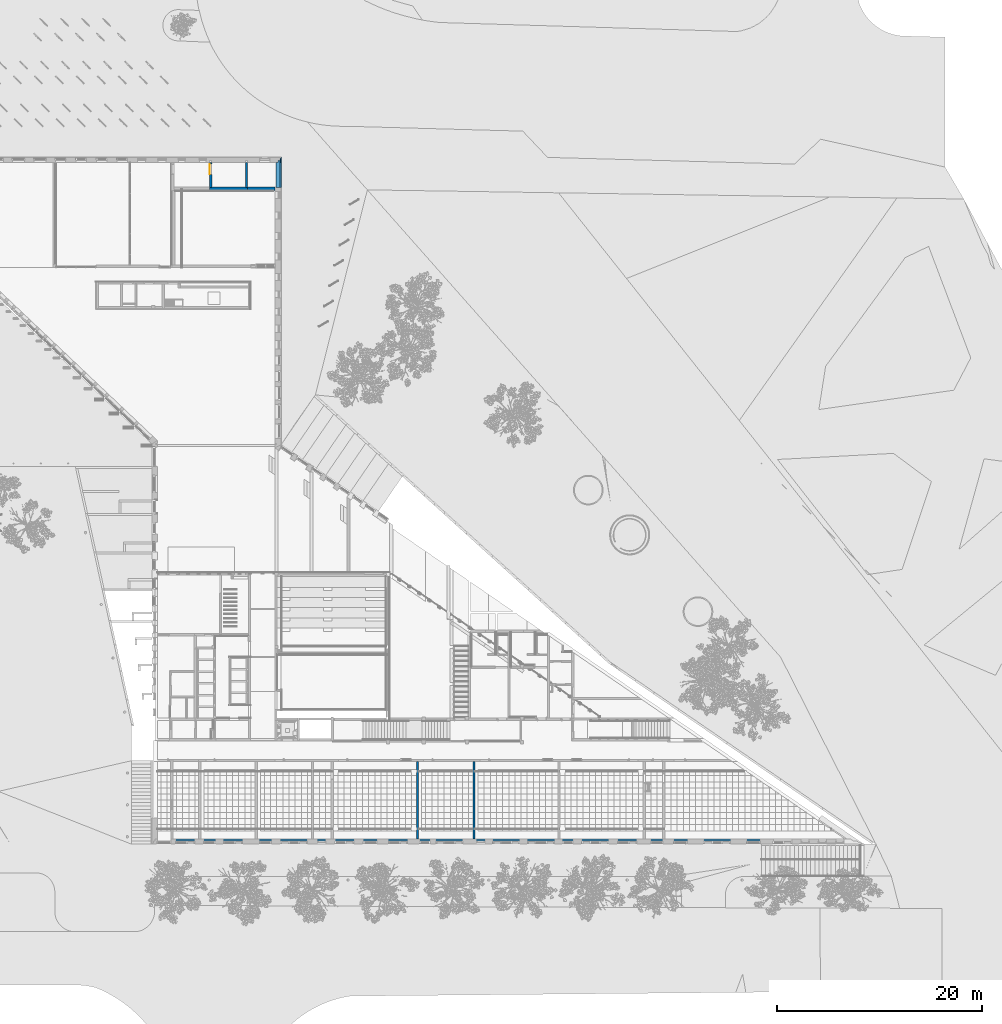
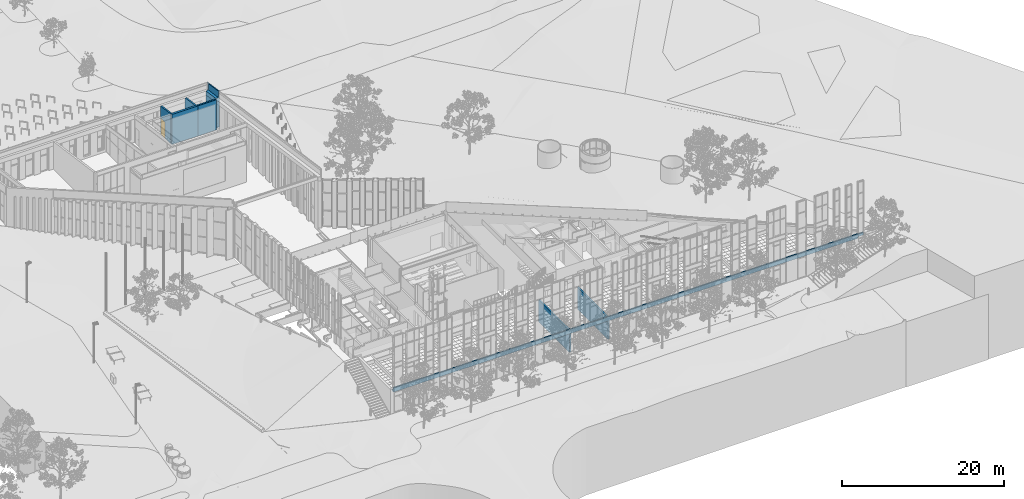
# One storey, part 130 of 246: 9 walls, 1 door, 1 opening.
"""IFC2X3 building model written with IfcOpenShell, lengths in millimetres."""

import ifcopenshell
import ifcopenshell.guid

model = None  # the IFC model being written
_history = None  # IfcOwnerHistory: only IFC2X3 demands one
_inside = {}  # id of a spatial element -> (the spatial element, [elements in it])
_under = {}  # id of a project, library or spatial element -> (it, [spatial elements below it])
_declared = {}  # id of a project -> (the project, [libraries it declares])
_typed = {}  # id of a type object -> (the type object, [elements of that type])
_made_of = {}  # id of a material, layer set ... -> (it, [elements and type objects made of it])


def new_model(schema):
    """Start an empty IFC model of exactly this schema.

    Asked for "IFC4X3", IfcOpenShell would pick the latest addendum, in which some entities
    have other attributes; the version numbers below select the first issue.
    IFC2X3 requires an IfcOwnerHistory on every rooted entity: one is made here for all.
    """
    global model, _history
    if schema == "IFC4X3":
        model = ifcopenshell.file(schema_version=(4, 3, 0, 0))
    else:
        model = ifcopenshell.file(schema=schema)
    _inside.clear()
    _under.clear()
    _declared.clear()
    _typed.clear()
    _made_of.clear()
    _history = None
    if model.schema == "IFC2X3":
        org = make("IfcOrganization", Name="unknown")
        user = make(
            "IfcPersonAndOrganization",
            ThePerson=make("IfcPerson", FamilyName="unknown"),
            TheOrganization=org,
        )
        app = make(
            "IfcApplication",
            ApplicationDeveloper=org,
            Version="unknown",
            ApplicationFullName="unknown",
            ApplicationIdentifier="unknown",
        )
        _history = make(
            "IfcOwnerHistory",
            OwningUser=user,
            OwningApplication=app,
            ChangeAction="ADDED",
            CreationDate=0,
        )
    return model


def make(cls, **values):
    """One entity of the class cls with the attributes given. An attribute that is None is left unset."""
    return model.create_entity(
        cls, **{name: value for name, value in values.items() if value is not None}
    )


def entity(cls, *values):
    """Any entity or typed value of the class cls, its attributes in the order of the schema. None: left unset."""
    e = model.create_entity(cls)
    for i, value in enumerate(values):
        if value is not None:
            e[i] = value
    return e


def rooted(cls, **values):
    """An entity with a GlobalId (a new one), such as an element, a storey or a relation."""
    return make(cls, GlobalId=ifcopenshell.guid.new(), OwnerHistory=_history, **values)


def si_unit(unit_type, name, prefix=None):
    """IfcSIUnit, for example si_unit("LENGTHUNIT", "METRE", prefix="MILLI")."""
    return make("IfcSIUnit", UnitType=unit_type, Prefix=prefix, Name=name)


def converted_unit(unit_type, name, factor, base, dimensions=None, offset=None):
    """IfcConversionBasedUnit, such as the inch: factor (a typed value) times the base unit."""
    return make(
        "IfcConversionBasedUnit"
        if offset is None
        else "IfcConversionBasedUnitWithOffset",
        ConversionOffset=offset,
        Dimensions=None
        if dimensions is None
        else entity("IfcDimensionalExponents", *dimensions),
        UnitType=unit_type,
        Name=name,
        ConversionFactor=make(
            "IfcMeasureWithUnit", ValueComponent=factor, UnitComponent=base
        ),
    )


def derived_unit(unit_type, elements):
    """IfcDerivedUnit: a product of units, each with its exponent."""
    return make(
        "IfcDerivedUnit",
        Elements=[
            make("IfcDerivedUnitElement", Unit=unit, Exponent=power)
            for unit, power in elements
        ],
        UnitType=unit_type,
    )


def money_unit(currency):
    """IfcMonetaryUnit."""
    return make("IfcMonetaryUnit", Currency=currency)


def assignment(units):
    """IfcUnitAssignment: the units of a project."""
    return None if units is None else make("IfcUnitAssignment", Units=units)


def point(xyz):
    """IfcCartesianPoint."""
    return None if xyz is None else make("IfcCartesianPoint", Coordinates=xyz)


def direction(xyz):
    """IfcDirection."""
    return None if xyz is None else make("IfcDirection", DirectionRatios=xyz)


def frame(location, z_axis=None, x_axis=None):
    """IfcAxis2Placement3D, a coordinate frame: its origin and axes. An axis left out is left unset."""
    return make(
        "IfcAxis2Placement3D",
        Location=point(location),
        Axis=direction(z_axis),
        RefDirection=direction(x_axis),
    )


def origin_with_axes():
    """The frame at (0, 0, 0) with the z axis (0, 0, 1) and the x axis (1, 0, 0) written out."""
    return frame((0.0, 0.0, 0.0), z_axis=(0.0, 0.0, 1.0), x_axis=(1.0, 0.0, 0.0))


def place(relative_to, where):
    """IfcLocalPlacement: puts the frame where relative to a parent placement (None: the world)."""
    return make(
        "IfcLocalPlacement", PlacementRelTo=relative_to, RelativePlacement=where
    )


def context(
    kind, dimensions, precision=None, world=None, true_north=None, identifier=None
):
    """IfcGeometricRepresentationContext, for example the 3D "Model" context."""
    return make(
        "IfcGeometricRepresentationContext",
        ContextIdentifier=identifier,
        ContextType=kind,
        CoordinateSpaceDimension=dimensions,
        Precision=precision,
        WorldCoordinateSystem=world,
        TrueNorth=true_north,
    )


def subcontext(parent, identifier, kind, view, scale=None):
    """IfcGeometricRepresentationSubContext, for example "Body" below "Model"."""
    return make(
        "IfcGeometricRepresentationSubContext",
        ContextIdentifier=identifier,
        ContextType=kind,
        ParentContext=parent,
        TargetScale=scale,
        TargetView=view,
    )


def project(units=None, contexts=None):
    """IfcProject with its units and contexts."""
    return rooted(
        "IfcProject",
        Name="project",
        RepresentationContexts=contexts,
        UnitsInContext=assignment(units),
    )


def spatial(cls, under=None, at=None, **own):
    """A site, building, storey or space (cls), placed at a placement, below another one or the project."""
    s = rooted(cls, ObjectPlacement=at, **own)
    if under is not None:
        _under.setdefault(under.id(), (under, []))[1].append(s)
    return s


def faces_of(points, faces, orient=None, outer=None):
    """IfcFace entities. A face is a list of loops; a loop is a list of indices into points, from 0.

    orient and outer hold one flag for each loop. By default every Orientation is true, the
    first loop of a face is its IfcFaceOuterBound and the others are IfcFaceBound.
    """
    made = []
    for i, loops in enumerate(faces):
        bounds = []
        for j, loop in enumerate(loops):
            is_outer = j == 0 if outer is None else outer[i][j]
            bounds.append(
                make(
                    "IfcFaceOuterBound" if is_outer else "IfcFaceBound",
                    Bound=make("IfcPolyLoop", Polygon=[points[k] for k in loop]),
                    Orientation=True if orient is None else orient[i][j],
                )
            )
        made.append(make("IfcFace", Bounds=bounds))
    return made


def faceted_brep(points, faces, orient=None, outer=None, voids=None):
    """IfcFacetedBrep: a solid bounded by flat faces; with voids (closed shells), ...WithVoids."""
    shared = [point(p) for p in points]
    hull = make("IfcClosedShell", CfsFaces=faces_of(shared, faces, orient, outer))
    if voids is None:
        return make("IfcFacetedBrep", Outer=hull)
    return make(
        "IfcFacetedBrepWithVoids",
        Outer=hull,
        Voids=[
            make(cls, CfsFaces=faces_of(shared, fs, o, b)) for cls, fs, o, b in voids
        ],
    )


def shape(context_of_items, identifier, shape_type, items):
    """IfcShapeRepresentation: the items that make up one representation, for example the "Body"."""
    return make(
        "IfcShapeRepresentation",
        ContextOfItems=context_of_items,
        RepresentationIdentifier=identifier,
        RepresentationType=shape_type,
        Items=items,
    )


def material(Name=None, Category=None):
    """IfcMaterial."""
    return make("IfcMaterial", Name=Name, Category=Category)


def material_list(materials):
    """IfcMaterialList."""
    return make("IfcMaterialList", Materials=materials)


def made_of(thing, what):
    """Note that an element or type object is made of a material, layer set ...; save() writes the relation."""
    if what is not None:
        _made_of.setdefault(what.id(), (what, []))[1].append(thing)
    return thing


def type_object(cls, material=None, **own):
    """A type object (cls), such as IfcWallType, which elements share."""
    return made_of(rooted(cls, **own), material)


def element(
    cls,
    number,
    at=None,
    inside=None,
    cuts=None,
    type_object=None,
    material=None,
    context=None,
    identifier="Body",
    shape_type=None,
    held_by="IfcProductDefinitionShape",
    body=None,
    shapes=None,
    **own,
):
    """One element of the class cls, such as IfcWall. Its Tag is "e" and its number.

    at: its placement. inside: the storey or other place that contains it. cuts: it is an
    opening in that element (IfcRelVoidsElement). A single representation is given by context,
    identifier, shape_type and body (its items); several are given by shapes. held_by: the class
    of the entity that holds the representations. save() writes the other relations.
    """
    e = rooted(cls, Tag="e%d" % number, ObjectPlacement=at, **own)
    if body is not None:
        shapes = [shape(context, identifier, shape_type, body)]
    if shapes is not None:
        e.Representation = make(held_by, Representations=shapes)
    if inside is not None:
        _inside.setdefault(inside.id(), (inside, []))[1].append(e)
    if cuts is not None:
        rooted(
            "IfcRelVoidsElement", RelatingBuildingElement=cuts, RelatedOpeningElement=e
        )
    if type_object is not None:
        _typed.setdefault(type_object.id(), (type_object, []))[1].append(e)
    return made_of(e, material)


def fill(opening, filler):
    """IfcRelFillsElement: the door or window that sits in an opening."""
    return rooted(
        "IfcRelFillsElement",
        RelatingOpeningElement=opening,
        RelatedBuildingElement=filler,
    )


def aggregate(whole, parts):
    """IfcRelAggregates: a whole, such as a stair, and the parts it consists of."""
    return rooted("IfcRelAggregates", RelatingObject=whole, RelatedObjects=parts)


def save(model, path):
    """Write the relations noted so far, then the file.

    IfcRelAggregates (storeys below a building ...), IfcRelContainedInSpatialStructure (elements
    in a storey), IfcRelDefinesByType, IfcRelAssociatesMaterial and IfcRelDeclares: one each for
    every whole, place, type object, material and project.
    """
    for whole, parts in _under.values():
        aggregate(whole, parts)
    for where, things in _inside.values():
        rooted(
            "IfcRelContainedInSpatialStructure",
            RelatedElements=things,
            RelatingStructure=where,
        )
    for kind, things in _typed.values():
        rooted("IfcRelDefinesByType", RelatedObjects=things, RelatingType=kind)
    for what, things in _made_of.values():
        rooted("IfcRelAssociatesMaterial", RelatedObjects=things, RelatingMaterial=what)
    for by, libraries in _declared.values():
        rooted("IfcRelDeclares", RelatingContext=by, RelatedDefinitions=libraries)
    model.write(path)


model = new_model("IFC2X3")

# Units and contexts
model_context = context("Model", 3, precision=0.01, world=origin_with_axes(), true_north=direction((0.0, 1.0)))
body_context = subcontext(model_context, "Body", "Model", "MODEL_VIEW")
ifc_project = project(units=[si_unit("LENGTHUNIT", "METRE", prefix="MILLI"), si_unit("AREAUNIT", "SQUARE_METRE"), si_unit("VOLUMEUNIT", "CUBIC_METRE"), converted_unit("PLANEANGLEUNIT", "DEGREE", entity("IfcPlaneAngleMeasure", 0.0174532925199), si_unit("PLANEANGLEUNIT", "RADIAN"), dimensions=[0, 0, 0, 0, 0, 0, 0]), si_unit("SOLIDANGLEUNIT", "STERADIAN"), money_unit("EUR"), converted_unit("TIMEUNIT", "Year", entity("IfcTimeMeasure", 31556926.0), si_unit("TIMEUNIT", "SECOND"), dimensions=[0, 0, 1, 0, 0, 0, 0]), si_unit("MASSUNIT", "GRAM", prefix="KILO"), si_unit("THERMODYNAMICTEMPERATUREUNIT", "DEGREE_CELSIUS"), si_unit("LUMINOUSINTENSITYUNIT", "LUMEN"), si_unit("ENERGYUNIT", "JOULE", prefix="MEGA"), derived_unit("THERMALCONDUCTANCEUNIT", [(si_unit("POWERUNIT", "WATT"), 1), (si_unit("LENGTHUNIT", "METRE"), -1), (si_unit("THERMODYNAMICTEMPERATUREUNIT", "KELVIN"), -1)]), derived_unit("SPECIFICHEATCAPACITYUNIT", [(si_unit("ENERGYUNIT", "JOULE"), 1), (si_unit("MASSUNIT", "GRAM", prefix="KILO"), -1), (si_unit("THERMODYNAMICTEMPERATUREUNIT", "KELVIN"), -1)]), derived_unit("MASSDENSITYUNIT", [(si_unit("MASSUNIT", "GRAM", prefix="KILO"), 1), (si_unit("VOLUMEUNIT", "CUBIC_METRE"), -1)])], contexts=[model_context])

# Site, building, storey
site_placement = place(None, origin_with_axes())
site = spatial("IfcSite", under=ifc_project, at=site_placement, Name="L.Koidula tn 11b", CompositionType="ELEMENT")
building_placement = place(site_placement, origin_with_axes())
building = spatial("IfcBuilding", under=site, at=building_placement, Name="Rakvere Riigigümnaasium", CompositionType="ELEMENT")
storey_placement = place(building_placement, origin_with_axes())
storey = spatial("IfcBuildingStorey", under=building, at=storey_placement, Name="1.korrus 0,00", CompositionType="ELEMENT", Elevation=0.0)

# Walls
ifc_material_1 = material(Name="Krohv")
ifc_material_2 = material(Name="Betoon element / plaat")
ifc_material_3 = material(Name="mineraalvill+karkass")
ifc_material_4 = material(Name="Kipsplaat")
ifc_material_list_1 = material_list([ifc_material_1, ifc_material_2, ifc_material_3, ifc_material_4])
wall_type_1 = type_object("IfcWallType", Name="SS-02-1 345", PredefinedType="NOTDEFINED")
wall_1_placement = place(storey_placement, frame((40620.034853, 68845.4313013, 0.0), z_axis=(0.0, 0.0, 1.0), x_axis=(1.0, 0.0, 0.0)))
element("IfcWall", 1, at=wall_1_placement, inside=storey, type_object=wall_type_1, material=ifc_material_list_1, Name="Sisesein", context=body_context, shape_type="Brep", body=[
    faceted_brep([(210.0, 345.0, 4499.68317876), (3499.50084348, 345.0, 4499.68316018), (3499.50084348, 345.0, 0.0), (210.0, 345.0, 0.0), (3499.49877233, 335.0, 4501.10637093), (210.0, 335.0, 4501.10638952), (3499.49877233, 335.0, 0.0), (210.0, 335.0, 0.0)], [[[0, 1, 2, 3]], [[4, 1, 0, 5]], [[1, 4, 6, 2]], [[6, 7, 3, 2]], [[5, 0, 3, 7]], [[4, 5, 7, 6]]]),
    faceted_brep([(0.0, 335.0, 4501.10639071), (3710.0, 335.0, 4501.10636974), (3710.0, 335.0, 0.0), (0.0, 335.0, 0.0), (3710.0, 135.0, 4529.57058488), (0.0, 135.0, 4529.57060585), (3710.0, 135.0, 0.0), (0.0, 135.0, 0.0)], [[[0, 1, 2, 3]], [[4, 1, 0, 5]], [[1, 4, 6, 2]], [[6, 7, 3, 2]], [[5, 0, 3, 7]], [[4, 5, 7, 6]]]),
    faceted_brep([(0.0, 125.0, 4530.9938166), (3710.0, 125.0, 4530.99379564), (3710.0, 125.0, 0.0), (0.0, 125.0, 0.0), (3710.0, 25.0, 4545.22590321), (0.0, 25.0, 4545.22592417), (3710.0, 25.0, 0.0), (0.0, 25.0, 0.0)], [[[0, 1, 2, 3]], [[4, 1, 0, 5]], [[1, 4, 6, 2]], [[7, 3, 2, 6]], [[5, 0, 3, 7]], [[4, 5, 7, 6]]]),
    faceted_brep([(0.0, 25.0, 4545.22592417), (3710.0, 25.0, 4545.22590321), (3710.0, 25.0, 0.0), (0.0, 25.0, 0.0), (3710.0, 0.0, 4548.7839301), (0.0, 0.0, 4548.78395107), (3710.0, 0.0, 0.0), (0.0, 0.0, 0.0)], [[[0, 1, 2, 3]], [[4, 1, 0, 5]], [[1, 4, 6, 2]], [[7, 3, 2, 6]], [[5, 0, 3, 7]], [[4, 5, 7, 6]]]),
])
wall_2_placement = place(storey_placement, frame((44330.034853, 68845.4313013, 0.0), z_axis=(0.0, 0.0, 1.0), x_axis=(1.0, 0.0, 0.0)))
element("IfcWall", 2, at=wall_2_placement, inside=storey, type_object=wall_type_1, material=ifc_material_list_1, Name="Sisesein", context=body_context, shape_type="Brep", body=[
    faceted_brep([(0.0, 345.0, 4499.68315899), (2669.0, 345.0, 4499.68314391), (2669.0, 345.0, 750.0), (9.50057444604, 345.0, 750.0), (9.50057444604, 345.0, 260.0), (2669.0, 345.0, 260.0), (2669.0, 345.0, 0.0), (0.0, 345.0, 0.0), (2669.0, 335.0, 4501.10635466), (0.0, 335.0, 4501.10636974), (2669.0, 335.0, 750.0), (9.50057444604, 335.0, 750.0), (9.50057444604, 335.0, 260.0), (2669.0, 335.0, 260.0), (2669.0, 335.0, 0.0), (0.0, 335.0, 0.0)], [[[0, 1, 2, 3, 4, 5, 6, 7]], [[8, 1, 0, 9]], [[1, 8, 10, 2]], [[11, 3, 2, 10]], [[4, 3, 11, 12]], [[12, 13, 5, 4]], [[6, 5, 13, 14]], [[15, 7, 6, 14]], [[9, 0, 7, 15]], [[8, 9, 15, 14, 13, 12, 11, 10]]]),
    faceted_brep([(0.0, 335.0, 4501.10636974), (2669.0, 335.0, 4501.10635466), (2669.0, 335.0, 740.0), (9.50057444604, 335.0, 740.0), (9.50057444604, 335.0, 660.0), (2669.0, 335.0, 660.0), (2669.0, 335.0, 0.0), (0.0, 335.0, 0.0), (2669.0, 135.0, 4529.5705698), (0.0, 135.0, 4529.57058488), (2669.0, 135.0, 0.0), (2669.0, 333.7, 660.0), (2669.0, 333.7, 740.0), (9.50057444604, 333.7, 740.0), (9.50057444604, 333.7, 660.0), (0.0, 135.0, 0.0)], [[[0, 1, 2, 3, 4, 5, 6, 7]], [[8, 1, 0, 9]], [[1, 8, 10, 6, 5, 11, 12, 2]], [[13, 3, 2, 12]], [[14, 4, 3, 13]], [[14, 11, 5, 4]], [[15, 7, 6, 10]], [[9, 0, 7, 15]], [[8, 9, 15, 10]], [[13, 12, 11, 14]]]),
    faceted_brep([(0.0, 125.0, 4530.99379564), (2669.0, 125.0, 4530.99378056), (2669.0, 125.0, 0.0), (0.0, 125.0, 0.0), (2669.0, 25.0, 4545.22588813), (0.0, 25.0, 4545.22590321), (2669.0, 25.0, 0.0), (0.0, 25.0, 0.0)], [[[0, 1, 2, 3]], [[4, 1, 0, 5]], [[1, 4, 6, 2]], [[3, 2, 6, 7]], [[5, 0, 3, 7]], [[4, 5, 7, 6]]]),
    faceted_brep([(0.0, 25.0, 4545.22590321), (2669.0, 25.0, 4545.22588813), (2669.0, 25.0, 0.0), (0.0, 25.0, 0.0), (2669.0, 0.0, 4548.78391502), (0.0, 0.0, 4548.7839301), (2669.0, 0.0, 0.0), (0.0, 0.0, 0.0)], [[[0, 1, 2, 3]], [[4, 1, 0, 5]], [[1, 4, 6, 2]], [[3, 2, 6, 7]], [[5, 0, 3, 7]], [[4, 5, 7, 6]]]),
])

# Wall, opening, door
ifc_material_5 = material(Name="siseviimistlus-seinad")
ifc_material_list_2 = material_list([ifc_material_5, ifc_material_2, ifc_material_5])
wall_type_2 = type_object("IfcWallType", Name="SS-01-2 220", PredefinedType="NOTDEFINED")
wall_3_placement = place(storey_placement, frame((40620.034853, 71600.4756445, 0.0), z_axis=(0.0, 0.0, 1.0), x_axis=(0.0, -1.0, 0.0)))
wall_3 = element("IfcWall", 3, at=wall_3_placement, inside=storey, type_object=wall_type_2, material=ifc_material_list_2, Name="Sisesein", context=body_context, shape_type="Brep", body=[
    faceted_brep([(0.0, 200.0, 4156.6830754), (0.0, 210.0, 4156.68307534), (0.0, 210.0, 3573.97480983), (0.0, 200.0, 3573.97480983), (2420.04434324, 210.0, 4501.10638952), (2420.04434324, 200.0, 4501.10638958), (2420.04434324, 210.0, 0.0), (1149.83912434, 210.0, 0.0), (1149.83912434, 210.0, 2400.0), (149.839124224, 210.0, 2400.0), (149.839124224, 210.0, 0.0), (0.0239607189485, 210.0, 0.0), (0.0239607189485, 210.0, 3573.97480983), (0.0239607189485, 200.0, 3573.97480983), (0.0239607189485, 200.0, 0.0), (149.839124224, 200.0, 0.0), (149.839124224, 200.0, 2400.0), (1149.83912434, 200.0, 2400.0), (1149.83912434, 200.0, 0.0), (2420.04434324, 200.0, 0.0)], [[[0, 1, 2, 3]], [[4, 1, 0, 5]], [[1, 4, 6, 7, 8, 9, 10, 11, 12, 2]], [[3, 2, 12, 13]], [[5, 0, 3, 13, 14, 15, 16, 17, 18, 19]], [[4, 5, 19, 6]], [[19, 18, 7, 6]], [[17, 8, 7, 18]], [[16, 9, 8, 17]], [[15, 10, 9, 16]], [[11, 10, 15, 14]], [[12, 11, 14, 13]]]),
    faceted_brep([(0.0, 0.0, 4156.68307653), (0.0, 200.0, 4156.6830754), (0.0, 200.0, 0.0), (0.0, 0.0, 0.0), (2420.04434324, 200.0, 4501.10638958), (2420.04434324, 0.0, 4501.10639071), (2420.04434324, 200.0, 0.0), (1149.83912434, 200.0, 0.0), (1149.83912434, 200.0, 2400.0), (149.839124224, 200.0, 2400.0), (149.839124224, 200.0, 0.0), (149.839124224, 0.0, 0.0), (149.839124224, 0.0, 2400.0), (1149.83912434, 0.0, 2400.0), (1149.83912434, 0.0, 0.0), (2420.04434324, 0.0, 0.0)], [[[0, 1, 2, 3]], [[4, 1, 0, 5]], [[1, 4, 6, 7, 8, 9, 10, 2]], [[10, 11, 3, 2]], [[5, 0, 3, 11, 12, 13, 14, 15]], [[4, 5, 15, 6]], [[15, 14, 7, 6]], [[7, 14, 13, 8]], [[9, 8, 13, 12]], [[10, 9, 12, 11]]]),
    faceted_brep([(0.0, -10.0, 4156.68307658), (0.0, 0.0, 4156.68307653), (0.0, 0.0, 3573.97480983), (0.0, -10.0, 3573.97480983), (2420.04434324, 0.0, 4501.10639071), (2420.04434324, -10.0, 4501.10639076), (2420.04434324, 0.0, 0.0), (1149.83912434, 0.0, 0.0), (1149.83912434, 0.0, 2400.0), (149.839124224, 0.0, 2400.0), (149.839124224, 0.0, 0.0), (0.0239607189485, 0.0, 0.0), (0.0239607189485, 0.0, 3573.97480983), (0.0239607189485, -10.0, 3573.97480983), (0.0239607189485, -10.0, 0.0), (149.839124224, -10.0, 0.0), (149.839124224, -10.0, 2400.0), (1149.83912434, -10.0, 2400.0), (1149.83912434, -10.0, 0.0), (2420.04434324, -10.0, 0.0)], [[[0, 1, 2, 3]], [[4, 1, 0, 5]], [[1, 4, 6, 7, 8, 9, 10, 11, 12, 2]], [[3, 2, 12, 13]], [[5, 0, 3, 13, 14, 15, 16, 17, 18, 19]], [[4, 5, 19, 6]], [[19, 18, 7, 6]], [[17, 8, 7, 18]], [[16, 9, 8, 17]], [[15, 10, 9, 16]], [[11, 10, 15, 14]], [[12, 11, 14, 13]]]),
])
opening_placement = place(wall_3_placement, frame((649.839124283, 0.0, 0.0), z_axis=(0.0, 0.0, 1.0), x_axis=(1.0, 0.0, 0.0)))
opening = element("IfcOpeningElement", 4, at=opening_placement, cuts=wall_3, Name="SU-002", context=body_context, shape_type="Brep", body=[
    faceted_brep([(-500.000000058, 30.0, 0.0), (-500.000000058, 30.0, 2400.0), (-500.000000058, 430.0, 2400.0), (-500.000000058, 430.0, 0.0), (500.000000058, 30.0, 0.0), (500.000000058, 30.0, 2400.0), (500.000000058, 430.0, 2400.0), (500.000000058, 430.0, 0.0)], [[[0, 1, 2, 3]], [[0, 4, 5, 1]], [[1, 5, 6, 2]], [[3, 2, 6, 7]], [[4, 0, 3, 7]], [[5, 4, 7, 6]]]),
    faceted_brep([(-500.000000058, 30.0, 2400.0), (-500.000000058, 30.0, 0.0), (-500.000000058, -230.0, 0.0), (-500.000000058, -230.0, 2400.0), (500.000000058, 30.0, 2400.0), (500.000000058, 30.0, 0.0), (500.000000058, -230.0, 0.0), (500.000000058, -230.0, 2400.0)], [[[0, 1, 2, 3]], [[0, 4, 5, 1]], [[1, 5, 6, 2]], [[3, 2, 6, 7]], [[4, 0, 3, 7]], [[5, 4, 7, 6]]]),
])
door_style = type_object("IfcDoorStyle", Name="Door 23", ConstructionType="NOTDEFINED", OperationType="SINGLE_SWING_LEFT", ParameterTakesPrecedence=False, Sizeable=False)
door_placement = place(opening_placement, frame((-500.000000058, 0.0, 0.0), z_axis=(0.0, 0.0, 1.0), x_axis=(1.0, 0.0, 0.0)))
door = element("IfcDoor", 5, at=door_placement, inside=storey, type_object=door_style, Name="SU-002", ObjectType="DOOR", OverallHeight=2400.0, OverallWidth=1000.0, context=body_context, shape_type="Brep", body=[
    faceted_brep([(962.000000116, -10.0, 0.0), (1000.00000012, -10.0, 0.0), (1000.00000012, -10.0, 2350.0), (962.000000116, -10.0, 2350.0), (962.000000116, 30.0, 0.0), (1000.00000012, 30.0, 0.0), (1000.00000012, 30.0, 2350.0), (962.000000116, 30.0, 2350.0)], [[[0, 1, 2, 3]], [[4, 5, 1, 0]], [[5, 6, 2, 1]], [[3, 2, 6, 7]], [[7, 4, 0, 3]], [[7, 6, 5, 4]]]),
    faceted_brep([(38.0, 30.0, 2350.0), (0.0, 30.0, 2350.0), (0.0, -10.0, 2350.0), (38.0, -10.0, 2350.0), (38.0, 30.0, 0.0), (0.0, 30.0, 0.0), (0.0, -10.0, 0.0), (38.0, -10.0, 0.0)], [[[0, 1, 2, 3]], [[4, 5, 1, 0]], [[1, 5, 6, 2]], [[3, 2, 6, 7]], [[7, 4, 0, 3]], [[7, 6, 5, 4]]]),
    faceted_brep([(962.000000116, -10.0, 2350.0), (1000.00000012, -10.0, 2350.0), (1000.00000012, -10.0, 2400.0), (0.0, -10.0, 2400.0), (0.0, -10.0, 2350.0), (38.0, -10.0, 2350.0), (38.0, -10.0, 2362.0), (962.000000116, -10.0, 2362.0), (962.000000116, 30.0, 2350.0), (1000.00000012, 30.0, 2350.0), (1000.00000012, 30.0, 2400.0), (0.0, 30.0, 2400.0), (0.0, 30.0, 2350.0), (38.0, 30.0, 2350.0), (38.0, 30.0, 2362.0), (962.000000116, 30.0, 2362.0)], [[[0, 1, 2, 3, 4, 5, 6, 7]], [[8, 9, 1, 0]], [[9, 10, 2, 1]], [[10, 11, 3, 2]], [[11, 12, 4, 3]], [[5, 4, 12, 13]], [[5, 13, 14, 6]], [[6, 14, 15, 7]], [[7, 15, 8, 0]], [[15, 14, 13, 12, 11, 10, 9, 8]]]),
    faceted_brep([(38.0, 30.0, 0.0), (962.000000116, 30.0, 0.0), (962.000000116, -10.0, 0.0), (38.0, -10.0, 0.0), (38.0, 30.0, 2362.0), (962.000000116, 30.0, 2362.0), (962.000000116, -10.0, 2362.0), (38.0, -10.0, 2362.0)], [[[0, 1, 2, 3]], [[0, 4, 5, 1]], [[1, 5, 6, 2]], [[3, 2, 6, 7]], [[4, 0, 3, 7]], [[5, 4, 7, 6]]]),
])
fill(opening, door)

# Walls
wall_4_placement = place(storey_placement, frame((66340.0149327, 13280.4487973, 0.0), z_axis=(0.0, 0.0, 1.0), x_axis=(0.0, -1.0, 0.0)))
element("IfcWall", 6, at=wall_4_placement, inside=storey, type_object=wall_type_2, material=ifc_material_list_2, Name="Sisesein", context=body_context, shape_type="Brep", body=[
    faceted_brep([(209.999946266, 200.0, 3325.0), (209.999943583, 210.0, 3325.0), (209.999943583, 210.0, 0.0), (209.999946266, 200.0, 0.0), (7779.99325778, 210.0, 3325.0), (7779.99325778, 200.0, 3325.0), (7779.99325839, 210.0, -7.44323735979e-06), (7779.99325839, 200.0, -7.44088657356e-06)], [[[0, 1, 2, 3]], [[4, 1, 0, 5]], [[1, 4, 6, 2]], [[2, 6, 7, 3]], [[5, 0, 3, 7]], [[4, 5, 7, 6]]]),
    faceted_brep([(199.99442552, 0.0, 3325.0), (199.99442552, 200.0, 3325.0), (199.999946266, 200.0, 0.0), (199.99999992, 0.0, 0.0), (7779.99325778, 200.0, 3325.0), (7779.99325778, 0.0, 3325.0), (7779.99325839, 200.0, -7.44088657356e-06), (7779.99325839, 0.0, -7.39387262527e-06)], [[[0, 1, 2, 3]], [[4, 1, 0, 5]], [[1, 4, 6, 2]], [[2, 6, 7, 3]], [[5, 0, 3, 7]], [[4, 5, 7, 6]]]),
    faceted_brep([(210.000002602, -10.0, 3325.0), (209.99999992, 0.0, 3325.0), (209.99999992, 0.0, 0.0), (210.000002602, -10.0, 0.0), (7779.99325778, 0.0, 3325.0), (7779.99325779, -10.0, 3325.0), (7779.99325839, 0.0, -7.39387284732e-06), (7779.99325839, -10.0, -7.39152206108e-06)], [[[0, 1, 2, 3]], [[4, 1, 0, 5]], [[1, 4, 6, 2]], [[2, 6, 7, 3]], [[5, 0, 3, 7]], [[4, 5, 7, 6]]]),
])
wall_5_placement = place(storey_placement, frame((60820.0162917, 13280.4473164, 0.0), z_axis=(0.0, 0.0, 1.0), x_axis=(0.0, -1.0, 0.0)))
element("IfcWall", 7, at=wall_5_placement, inside=storey, type_object=wall_type_2, material=ifc_material_list_2, Name="Sisesein", context=body_context, shape_type="Brep", body=[
    faceted_brep([(209.999946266, 200.0, 3325.0), (209.999943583, 210.0, 3325.0), (209.999943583, 210.0, 0.0), (209.999946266, 200.0, 0.0), (7779.99177705, 210.0, 3325.0), (7779.99177705, 200.0, 3325.0), (7779.99177755, 210.0, -6.14565509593e-06), (7779.99177755, 200.0, -6.1433043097e-06)], [[[0, 1, 2, 3]], [[4, 1, 0, 5]], [[1, 4, 6, 2]], [[2, 6, 7, 3]], [[5, 0, 3, 7]], [[4, 5, 7, 6]]]),
    faceted_brep([(199.99294468, 0.0, 3325.0), (199.99294468, 200.0, 3325.0), (199.999946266, 200.0, 0.0), (199.99999992, 0.0, 0.0), (7779.99177705, 200.0, 3325.0), (7779.99177705, 0.0, 3325.0), (7779.99177755, 200.0, -6.14330453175e-06), (7779.99177755, 0.0, -6.09629058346e-06)], [[[0, 1, 2, 3]], [[4, 1, 0, 5]], [[1, 4, 6, 2]], [[2, 6, 7, 3]], [[5, 0, 3, 7]], [[4, 5, 7, 6]]]),
    faceted_brep([(210.000002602, -10.0, 3325.0), (209.99999992, 0.0, 3325.0), (209.99999992, 0.0, 0.0), (210.000002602, -10.0, 0.0), (7779.99177705, 0.0, 3325.0), (7779.99177705, -10.0, 3325.0), (7779.99177755, 0.0, -6.09629058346e-06), (7779.99177755, -10.0, -6.09393979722e-06)], [[[0, 1, 2, 3]], [[4, 1, 0, 5]], [[1, 4, 6, 2]], [[2, 6, 7, 3]], [[5, 0, 3, 7]], [[4, 5, 7, 6]]]),
])
wall_6_placement = place(storey_placement, frame((44130.034853, 71600.4756445, 0.0), z_axis=(0.0, 0.0, 1.0), x_axis=(-0.000207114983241, -0.999999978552, 0.0)))
element("IfcWall", 8, at=wall_6_placement, inside=storey, type_object=wall_type_2, material=ifc_material_list_2, Name="Sisesein", context=body_context, shape_type="Brep", body=[
    faceted_brep([(0.0, 200.0, 4156.68895093), (0.0, 210.0, 4156.68924564), (0.0, 210.0, 750.0), (0.0, 209.500578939, 750.0), (0.0, 209.500578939, 460.0), (0.0, 210.0, 460.0), (0.0, 210.0, 0.0), (0.0, 200.0, 0.0), (2420.00090099, 210.0, 4501.10636969), (2420.00297214, 200.0, 4501.10636975), (2420.00090099, 210.0, 0.0), (2411.32264793, 210.0, 460.0), (2411.32264793, 210.0, 750.0), (2420.00297214, 200.0, 0.0)], [[[0, 1, 2, 3, 4, 5, 6, 7]], [[8, 1, 0, 9]], [[1, 8, 10, 6, 5, 11, 12, 2]], [[2, 12, 3]], [[11, 4, 3, 12]], [[5, 4, 11]], [[6, 10, 13, 7]], [[9, 0, 7, 13]], [[8, 9, 13, 10]]]),
    faceted_brep([(0.0, 0.0, 4156.68305669), (0.0, 200.0, 4156.68895093), (0.0, 200.0, 0.0), (0.0, 0.0, 0.0), (2420.00297214, 200.0, 4501.10636975), (2420.04439514, 0.0, 4501.10637088), (2420.00297214, 200.0, 0.0), (2420.04439514, 0.0, 0.0)], [[[0, 1, 2, 3]], [[4, 1, 0, 5]], [[1, 4, 6, 2]], [[6, 7, 3, 2]], [[5, 0, 3, 7]], [[4, 5, 7, 6]]]),
    faceted_brep([(0.0, -10.0, 4156.68276198), (0.0, 0.0, 4156.68305669), (0.0, 0.0, 3573.97480983), (0.0, -10.0, 3573.97480983), (2420.04439514, 0.0, 4501.10637088), (2420.04646629, -10.0, 4501.10637093), (2420.04439514, 0.0, 0.0), (0.0239607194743, 0.0, 0.0), (0.0239607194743, 0.0, 3573.97480983), (0.0260318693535, -10.0, 3573.97480983), (0.0260318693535, -10.0, 0.0), (2420.04646629, -10.0, 0.0)], [[[0, 1, 2, 3]], [[4, 1, 0, 5]], [[1, 4, 6, 7, 8, 2]], [[9, 3, 2, 8]], [[5, 0, 3, 9, 10, 11]], [[4, 5, 11, 6]], [[11, 10, 7, 6]], [[9, 8, 7, 10]]]),
])
ifc_material_6 = material(Name="FF-PIR soojustus-2")
ifc_material_7 = material(Name="Betoon-element")
ifc_material_list_3 = material_list([ifc_material_6, ifc_material_7, ifc_material_1])
wall_type_3 = type_object("IfcWallType", Name="VS-01-3 390", PredefinedType="NOTDEFINED")
wall_7_placement = place(storey_placement, frame((102599.965712, 5500.45553887, 3075.0), z_axis=(0.0, 0.0, 1.0), x_axis=(-1.0, 0.0, 0.0)))
element("IfcWall", 9, at=wall_7_placement, inside=storey, type_object=wall_type_3, material=ifc_material_list_3, Name="Välissein", context=body_context, shape_type="Brep", body=[
    faceted_brep([(0.0, 380.0, 250.0), (0.0, 200.0, 250.0), (0.0, 200.0, 645.0), (0.0, 380.0, 645.0), (800.0, 200.0, 250.0), (800.0, 380.0, 250.0), (800.0, 200.0, 0.0), (67095.0, 200.0, 0.0), (67095.0, 200.0, 645.0), (67095.0, 380.0, 645.0), (67095.0, 380.0, 0.0), (800.0, 380.0, 0.0)], [[[0, 1, 2, 3]], [[4, 1, 0, 5]], [[4, 6, 7, 8, 2, 1]], [[2, 8, 9, 3]], [[5, 0, 3, 9, 10, 11]], [[6, 4, 5, 11]], [[6, 11, 10, 7]], [[9, 8, 7, 10]]]),
    faceted_brep([(67095.0, 0.0, 250.0), (800.0, -2.10498285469e-10, 250.0), (800.0, -2.10498285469e-10, 0.0), (67095.0, 0.0, 0.0), (800.0, 200.0, 250.0), (67095.0, 200.0, 250.0), (800.0, 200.0, 0.0), (67095.0, 200.0, 0.0)], [[[0, 1, 2, 3]], [[4, 1, 0, 5]], [[1, 4, 6, 2]], [[3, 2, 6, 7]], [[5, 0, 3, 7]], [[4, 5, 7, 6]]]),
    faceted_brep([(67095.0, -10.0, 250.0), (65789.965712, -10.0, 250.0), (65789.965712, -10.0, 0.0), (67095.0, -10.0, 0.0), (65789.965712, -3.03819192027e-08, 250.0), (67095.0, -2.10498285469e-10, 250.0), (65789.965712, -3.03819192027e-08, 0.0), (67095.0, -2.10498285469e-10, 0.0)], [[[0, 1, 2, 3]], [[4, 1, 0, 5]], [[1, 4, 6, 2]], [[3, 2, 6, 7]], [[5, 0, 3, 7]], [[4, 5, 7, 6]]]),
    faceted_brep([(65569.965712, -10.0, 250.0), (63069.9657139, -10.0, 250.0), (63069.9657139, -10.0, 0.0), (65569.965712, -10.0, 0.0), (63069.9657139, -9.03037644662e-08, 250.0), (65569.965712, -3.52278206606e-08, 250.0), (63069.9657139, -9.03037644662e-08, 0.0), (65569.965712, -3.52278206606e-08, 0.0)], [[[0, 1, 2, 3]], [[4, 1, 0, 5]], [[1, 4, 6, 2]], [[3, 2, 6, 7]], [[5, 0, 3, 7]], [[4, 5, 7, 6]]]),
    faceted_brep([(57329.9657153, -10.0, 250.0), (52029.9826352, -10.0, 250.0), (52029.9826352, -10.0, 0.0), (57329.9657153, -10.0, 0.0), (52029.9826352, -3.33515437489e-07, 250.0), (57329.9657153, -2.16756390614e-07, 250.0), (52029.9826352, -3.33515437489e-07, 0.0), (57329.9657153, -2.16756390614e-07, 0.0)], [[[0, 1, 2, 3]], [[4, 1, 0, 5]], [[1, 4, 6, 2]], [[3, 2, 6, 7]], [[5, 0, 3, 7]], [[4, 5, 7, 6]]]),
    faceted_brep([(51809.9826352, -10.0, 250.0), (50109.9890739, -10.0, 250.0), (50109.9890739, -10.0, 0.0), (51809.9826352, -10.0, 0.0), (50109.9890739, -3.75813158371e-07, 250.0), (51809.9826352, -3.38362227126e-07, 250.0), (50109.9890739, -3.75813158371e-07, 0.0), (51809.9826352, -3.38362227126e-07, 0.0)], [[[0, 1, 2, 3]], [[4, 1, 0, 5]], [[1, 4, 6, 2]], [[3, 2, 6, 7]], [[5, 0, 3, 7]], [[4, 5, 7, 6]]]),
    faceted_brep([(49889.9890739, -10.0, 250.0), (41789.9494208, -10.0, 250.0), (41789.9494208, -10.0, 0.0), (49889.9890739, -10.0, 0.0), (41789.9494208, -5.59103874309e-07, 250.0), (49889.9890739, -3.80659948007e-07, 250.0), (41789.9494208, -5.59103874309e-07, 0.0), (49889.9890739, -3.80659948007e-07, 0.0)], [[[0, 1, 2, 3]], [[4, 1, 0, 5]], [[1, 4, 6, 2]], [[3, 2, 6, 7]], [[5, 0, 3, 7]], [[4, 5, 7, 6]]]),
    faceted_brep([(41569.9494208, -10.0, 250.0), (36269.9507798, -10.0, 250.0), (36269.9507798, -10.0, 0.0), (41569.9494208, -10.0, 0.0), (36269.9507798, -6.80710598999e-07, 250.0), (41569.9494208, -5.63950663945e-07, 250.0), (36269.9507798, -6.80710598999e-07, 0.0), (41569.9494208, -5.63950663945e-07, 0.0)], [[[0, 1, 2, 3]], [[4, 1, 0, 5]], [[1, 4, 6, 2]], [[3, 2, 6, 7]], [[5, 0, 3, 7]], [[4, 5, 7, 6]]]),
    faceted_brep([(36049.9507798, -10.0, 250.0), (27949.9506235, -10.0, 250.0), (27949.9506235, -10.0, 0.0), (36049.9507798, -10.0, 0.0), (27949.9506235, -8.64000426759e-07, 250.0), (36049.9507798, -6.85556500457e-07, 250.0), (27949.9506235, -8.64000426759e-07, 0.0), (36049.9507798, -6.85557388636e-07, 0.0)], [[[0, 1, 2, 3]], [[4, 1, 0, 5]], [[1, 4, 6, 2]], [[3, 2, 6, 7]], [[5, 0, 3, 7]], [[4, 5, 7, 6]]]),
    faceted_brep([(27729.9506235, -10.0, 250.0), (19629.9682016, -10.0, 250.0), (19629.9682016, -10.0, 0.0), (27729.9506235, -10.0, 0.0), (19629.9682016, -1.0472911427e-06, 250.0), (27729.9506235, -8.68847216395e-07, 250.0), (19629.9682016, -1.0472911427e-06, 0.0), (27729.9506235, -8.68847216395e-07, 0.0)], [[[0, 1, 2, 3]], [[4, 1, 0, 5]], [[1, 4, 6, 2]], [[3, 2, 6, 7]], [[5, 0, 3, 7]], [[4, 5, 7, 6]]]),
    faceted_brep([(19409.9682016, -10.0, 250.0), (17709.9803594, -10.0, 250.0), (17709.9803594, -10.0, 0.0), (19409.9682016, -10.0, 0.0), (17709.9803594, -1.0895879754e-06, 250.0), (19409.9682016, -1.05213704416e-06, 250.0), (17709.9803594, -1.0895879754e-06, 0.0), (19409.9682016, -1.05213704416e-06, 0.0)], [[[0, 1, 2, 3]], [[4, 1, 0, 5]], [[1, 4, 6, 2]], [[3, 2, 6, 7]], [[5, 0, 3, 7]], [[4, 5, 7, 6]]]),
    faceted_brep([(17489.9803594, -10.0, 250.0), (800.0, -10.0000000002, 250.0), (800.0, -10.0000000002, 0.0), (17489.9803594, -10.0, 0.0), (800.0, -2.10498285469e-10, 250.0), (17489.9803594, -1.09443476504e-06, 250.0), (800.0, -2.10498285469e-10, 0.0), (17489.9803594, -1.09443476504e-06, 0.0)], [[[0, 1, 2, 3]], [[4, 1, 0, 5]], [[1, 4, 6, 2]], [[3, 2, 6, 7]], [[5, 0, 3, 7]], [[4, 5, 7, 6]]]),
    faceted_brep([(62849.9657139, -10.0, 250.0), (57549.9657153, -10.0, 250.0), (57549.9657153, -10.0, 0.0), (62849.9657139, -10.0, 0.0), (57549.9657153, -2.11909600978e-07, 250.0), (62849.9657139, -9.51496659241e-08, 250.0), (57549.9657153, -2.11909600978e-07, 0.0), (62849.9657139, -9.51496659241e-08, 0.0)], [[[0, 1, 2, 3]], [[4, 1, 0, 5]], [[1, 4, 6, 2]], [[6, 7, 3, 2]], [[5, 0, 3, 7]], [[4, 5, 7, 6]]]),
])
ifc_material_8 = material(Name="Puit-fassaad")
ifc_material_9 = material(Name="Salto-roovitus")
ifc_material_10 = material(Name="Tuuletõke (RKL Facade)")
ifc_material_11 = material(Name="FF-PIR soojustus")
ifc_material_list_4 = material_list([ifc_material_8, ifc_material_9, ifc_material_9, ifc_material_10, ifc_material_11, ifc_material_7])
wall_type_4 = type_object("IfcWallType", Name="VS-01 514", PredefinedType="NOTDEFINED")
wall_8_placement = place(storey_placement, frame((47099.9999935, 71600.4516838, 0.0), z_axis=(0.0, 0.0, 1.0), x_axis=(0.0, -1.0, 0.0)))
element("IfcWall", 10, at=wall_8_placement, inside=storey, type_object=wall_type_4, material=ifc_material_list_4, Name="Välissein", context=body_context, shape_type="Brep", body=[
    faceted_brep([(-494.0, 494.0, 3503.64231323), (-494.0, 514.0, 3503.64231323), (-494.0, 514.0, 0.0), (-494.0, 494.0, 0.0), (2420.02153985, 494.0, 3918.52168577), (2420.02153985, 514.0, 3918.52168577), (2420.02153985, 514.0, 0.0), (2420.02153985, 494.0, 0.0)], [[[0, 1, 2, 3]], [[1, 0, 4, 5]], [[1, 5, 6, 2]], [[7, 3, 2, 6]], [[4, 0, 3, 7]], [[5, 4, 7, 6]]]),
    faceted_brep([(-462.0, 462.0, 3508.19826443), (-462.0, 494.0, 3508.19826443), (-462.0, 494.0, 0.0), (-462.0, 462.0, 0.0), (2420.02153985, 462.0, 3918.52168577), (2420.02153985, 494.0, 3918.52168577), (2420.02153985, 494.0, 0.0), (2420.02153985, 462.0, 0.0)], [[[0, 1, 2, 3]], [[1, 0, 4, 5]], [[1, 5, 6, 2]], [[7, 3, 2, 6]], [[4, 0, 3, 7]], [[5, 4, 7, 6]]]),
    faceted_brep([(-430.0, 430.0, 3512.75421563), (-430.0, 462.0, 3512.75421563), (-430.0, 462.0, 0.0), (-430.0, 430.0, 0.0), (2420.02153985, 430.0, 3918.52168577), (2420.02153985, 462.0, 3918.52168577), (2420.02153985, 462.0, 0.0), (2420.02153985, 430.0, 0.0)], [[[0, 1, 2, 3]], [[1, 0, 4, 5]], [[1, 5, 6, 2]], [[7, 3, 2, 6]], [[4, 0, 3, 7]], [[5, 4, 7, 6]]]),
    faceted_brep([(-380.0, 380.0, 3519.87288937), (-380.0, 430.0, 3519.87288937), (-380.0, 430.0, 0.0), (-380.0, 380.0, 0.0), (2420.02153985, 380.0, 3918.52168577), (2420.02153985, 430.0, 3918.52168577), (2420.02153985, 430.0, 0.0), (2420.02153985, 380.0, 0.0)], [[[0, 1, 2, 3]], [[1, 0, 4, 5]], [[1, 5, 6, 2]], [[6, 7, 3, 2]], [[4, 0, 3, 7]], [[5, 4, 7, 6]]]),
    faceted_brep([(-200.0, 200.0, 3545.50011485), (-200.0, 380.0, 3545.50011485), (-200.0, 380.0, 0.0), (-200.0, 200.0, 0.0), (2420.02153985, 200.0, 3918.52168577), (2420.02153985, 379.999992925, 3918.52168577), (2420.02153985, 380.0, 0.0), (2420.02153985, 200.0, 0.0)], [[[0, 1, 2, 3]], [[1, 0, 4, 5]], [[1, 5, 6, 2]], [[6, 7, 3, 2]], [[4, 0, 3, 7]], [[5, 4, 7, 6]]]),
    faceted_brep([(0.0, 0.0, 3573.97480983), (0.0, 200.0, 3573.97480983), (0.0, 200.0, 740.0), (0.0, 0.0, 740.0), (2420.02153985, 200.0, 3918.52168577), (2420.02153985, 0.0, 3918.52168577), (2420.02153985, 200.0, 740.0), (2420.02153985, 0.0, 740.0)], [[[0, 1, 2, 3]], [[4, 1, 0, 5]], [[1, 4, 6, 2]], [[6, 7, 3, 2]], [[5, 0, 3, 7]], [[4, 5, 7, 6]]]),
    faceted_brep([(0.0, 0.0, 660.0), (0.0, 200.0, 660.0), (0.0, 200.0, 0.0), (0.0, 0.0, 0.0), (2420.02153985, 200.0, 660.0), (2420.02153985, 0.0, 660.0), (2420.02153985, 200.0, 0.0), (2420.02153985, 0.0, 0.0)], [[[0, 1, 2, 3]], [[4, 1, 0, 5]], [[1, 4, 6, 2]], [[7, 3, 2, 6]], [[5, 0, 3, 7]], [[4, 5, 7, 6]]]),
])
ifc_material_12 = material(Name="Roovid-puit")
ifc_material_list_5 = material_list([ifc_material_7, ifc_material_11, ifc_material_10, ifc_material_12, ifc_material_12, ifc_material_12])
wall_type_5 = type_object("IfcWallType", Name="VS-09-1 526", PredefinedType="NOTDEFINED")
wall_9_placement = place(storey_placement, frame((47100.0000202, 69181.6766314, 3500.0), z_axis=(0.0, 0.0, 1.0), x_axis=(0.0, 1.0, 0.0)))
element("IfcWall", 11, at=wall_9_placement, inside=storey, type_object=wall_type_5, material=ifc_material_list_5, Name="Välissein", context=body_context, shape_type="Brep", body=[
    faceted_brep([(2418.77505241, -1.61693591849e-05, 656.686450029), (2418.77505241, -200.0, 656.686448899), (2418.77505241, -200.0, 73.9748098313), (2418.77505241, -1.82145498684e-06, 73.9748098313), (0.0, -200.0, 1000.92911624), (0.0, 0.0, 1000.92911737), (0.0, -200.0, 418.344219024), (0.0, 0.0, 418.344219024)], [[[0, 1, 2, 3]], [[4, 1, 0, 5]], [[1, 4, 6, 2]], [[7, 3, 2, 6]], [[5, 0, 3, 7]], [[4, 5, 7, 6]]]),
    faceted_brep([(2618.77505241, -200.0, 628.222233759), (2618.77505241, -379.999965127, 628.222232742), (2618.77505241, -380.0, 45.500114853), (2618.77505241, -200.0, 45.500114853), (0.0, -379.999965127, 1000.92911522), (0.0, -200.0, 1000.92911624), (0.0, -380.0, 418.344219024), (0.0, -200.0, 418.344219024)], [[[0, 1, 2, 3]], [[4, 1, 0, 5]], [[1, 4, 6, 2]], [[7, 3, 2, 6]], [[5, 0, 3, 7]], [[4, 5, 7, 6]]]),
    faceted_brep([(2418.77505241, -380.0, 1618.95683734), (2418.77505241, -430.0, 1618.95683734), (2418.77505241, -430.0, 1520.0), (2418.77505241, -380.0, 1520.0), (0.0, -430.0, 1963.70422713), (0.0, -380.0, 1963.70422713), (0.0, -430.0, 418.344219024), (2418.77505241, -430.0, 73.9748098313), (2418.77505241, -380.0, 73.9748098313), (0.0, -380.0, 418.344219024)], [[[0, 1, 2, 3]], [[4, 1, 0, 5]], [[1, 4, 6, 7, 2]], [[3, 2, 7, 8]], [[5, 0, 3, 8, 9]], [[4, 5, 9, 6]], [[6, 9, 8, 7]]]),
    faceted_brep([(2418.77505241, -430.0, 1618.95683734), (2418.77505241, -462.0, 1618.95683734), (2418.77505241, -462.0, 1520.0), (2418.77505241, -430.0, 1520.0), (0.0, -462.0, 1963.70422713), (0.0, -430.0, 1963.70422713), (0.0, -462.0, 418.344219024), (2418.77505241, -462.0, 73.9748098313), (2418.77505241, -430.0, 73.9748098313), (0.0, -430.0, 418.344219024)], [[[0, 1, 2, 3]], [[4, 1, 0, 5]], [[1, 4, 6, 7, 2]], [[2, 7, 8, 3]], [[5, 0, 3, 8, 9]], [[4, 5, 9, 6]], [[9, 8, 7, 6]]]),
    faceted_brep([(2418.77505241, -462.0, 1618.95683734), (2418.77505241, -494.0, 1618.95683734), (2418.77505241, -494.0, 1520.0), (2418.77505241, -462.0, 1520.0), (0.0, -494.0, 1963.70422713), (0.0, -462.0, 1963.70422713), (0.0, -494.0, 418.344219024), (2418.77505241, -494.0, 73.9748098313), (2418.77505241, -462.0, 73.9748098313), (0.0, -462.0, 418.344219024)], [[[0, 1, 2, 3]], [[4, 1, 0, 5]], [[1, 4, 6, 7, 2]], [[2, 7, 8, 3]], [[5, 0, 3, 8, 9]], [[4, 5, 9, 6]], [[9, 8, 7, 6]]]),
    faceted_brep([(2418.77505241, -494.0, 1618.95683734), (2418.77505241, -526.0, 1618.95683734), (2418.77505241, -526.0, 1520.0), (2418.77505241, -513.999973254, 1520.0), (2418.77505241, -494.0, 1520.0), (0.0, -526.0, 1963.70422713), (0.0, -494.0, 1963.70422713), (0.0, -526.0, 418.344219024), (2938.35786014, -526.0, 0.0), (2944.77505241, -526.0, 0.0), (2944.77505241, -526.0, 1520.0), (2944.77505241, -513.999973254, 1520.0), (2418.77505241, -513.999973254, 73.9748098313), (2418.77505241, -494.0, 73.9748098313), (0.0, -494.0, 418.344219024), (2938.35786014, -513.999973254, 0.0), (2944.77505241, -513.999973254, 0.0)], [[[0, 1, 2, 3, 4]], [[5, 1, 0, 6]], [[1, 5, 7, 8, 9, 10, 2]], [[10, 11, 3, 2]], [[3, 12, 13, 4]], [[6, 0, 4, 13, 14]], [[5, 6, 14, 7]], [[12, 15, 8, 7, 14, 13]], [[9, 8, 15, 16]], [[10, 9, 16, 11]], [[16, 15, 12, 3, 11]]]),
])

save(model, "model.ifc")
